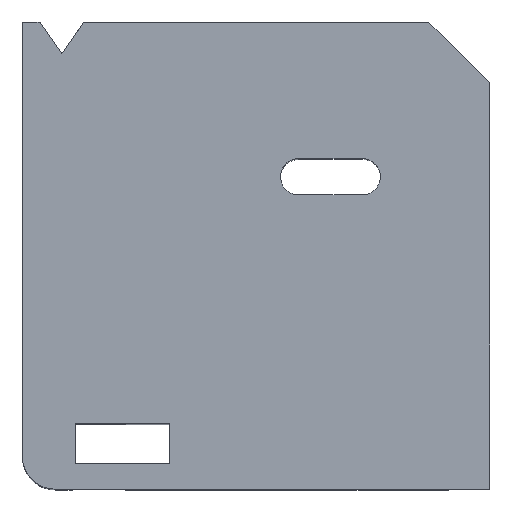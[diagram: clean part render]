
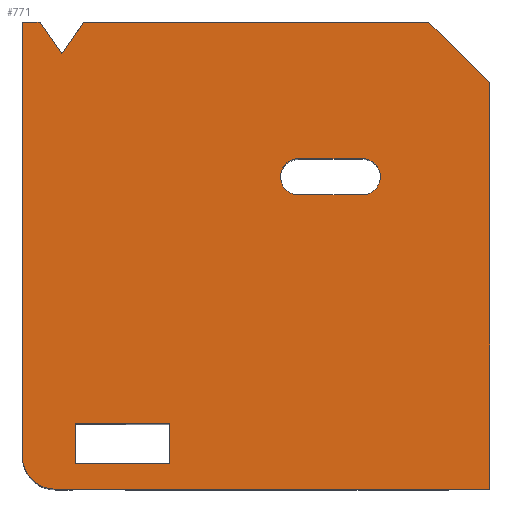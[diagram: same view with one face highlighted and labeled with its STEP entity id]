
A CAD part, top view. The second image highlights one B-rep face of the part: STEP entity #771.
In plain terms, the highlighted planar face has unit normal (0, 0, 1).
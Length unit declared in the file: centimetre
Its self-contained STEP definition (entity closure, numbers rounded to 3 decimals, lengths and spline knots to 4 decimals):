
#14 = EDGE_CURVE ( 'NONE', #1100, #1021, #1037, .T. ) ;
#19 = LINE ( 'NONE', #212, #1183 ) ;
#20 = VERTEX_POINT ( 'NONE', #1067 ) ;
#21 = DIRECTION ( 'NONE',  ( -1., 0., 0. ) ) ;
#29 = AXIS2_PLACEMENT_3D ( 'NONE', #1045, #581, #959 ) ;
#33 = DIRECTION ( 'NONE',  ( 1., 0., 0. ) ) ;
#53 = EDGE_CURVE ( 'NONE', #1125, #741, #441, .T. ) ;
#97 = CARTESIAN_POINT ( 'NONE',  ( 0., 0., 1000. ) ) ;
#143 = DIRECTION ( 'NONE',  ( 0., -1., 0. ) ) ;
#144 = CARTESIAN_POINT ( 'NONE',  ( 37.8812, 1000., 1000. ) ) ;
#147 = CIRCLE ( 'NONE', #29, 38.7042 ) ;
#156 = EDGE_CURVE ( 'NONE', #1043, #612, #302, .T. ) ;
#186 = VERTEX_POINT ( 'NONE', #525 ) ;
#187 = CARTESIAN_POINT ( 'NONE',  ( 113.2178, 140.1208, 1000. ) ) ;
#195 = ORIENTED_EDGE ( 'NONE', *, *, #391, .T. ) ;
#196 = CARTESIAN_POINT ( 'NONE',  ( 314.8779, 54.4337, 1000. ) ) ;
#203 = EDGE_CURVE ( 'NONE', #1146, #1151, #389, .T. ) ;
#212 = CARTESIAN_POINT ( 'NONE',  ( 113.2178, 54.4337, 1000. ) ) ;
#223 = CARTESIAN_POINT ( 'NONE',  ( 0., 0., 1000. ) ) ;
#227 = VERTEX_POINT ( 'NONE', #378 ) ;
#236 = AXIS2_PLACEMENT_3D ( 'NONE', #97, #367, #1180 ) ;
#239 = CARTESIAN_POINT ( 'NONE',  ( 70.3558, 0., 1000. ) ) ;
#251 = VECTOR ( 'NONE', #497, 100. ) ;
#252 = VECTOR ( 'NONE', #746, 100. ) ;
#257 = EDGE_CURVE ( 'NONE', #227, #1004, #644, .T. ) ;
#258 = FACE_OUTER_BOUND ( 'NONE', #518, .T. ) ;
#259 = ORIENTED_EDGE ( 'NONE', *, *, #707, .T. ) ;
#273 = CARTESIAN_POINT ( 'NONE',  ( 37.8812, 1000., 1000. ) ) ;
#281 = CARTESIAN_POINT ( 'NONE',  ( 84.5173, 932.9838, 1000. ) ) ;
#284 = CARTESIAN_POINT ( 'NONE',  ( 131.1533, 1000., 1000. ) ) ;
#292 = VERTEX_POINT ( 'NONE', #284 ) ;
#302 = CIRCLE ( 'NONE', #379, 70.3558 ) ;
#307 = CARTESIAN_POINT ( 'NONE',  ( 1000., 0., 1000. ) ) ;
#312 = CARTESIAN_POINT ( 'NONE',  ( 84.5173, 932.9838, 1000. ) ) ;
#313 = EDGE_CURVE ( 'NONE', #20, #1100, #854, .T. ) ;
#317 = EDGE_CURVE ( 'NONE', #1117, #20, #147, .T. ) ;
#319 = DIRECTION ( 'NONE',  ( 0., 0., -1. ) ) ;
#325 = CARTESIAN_POINT ( 'NONE',  ( 591.2044, 668.7535, 1000. ) ) ;
#347 = DIRECTION ( 'NONE',  ( 1., 0., 0. ) ) ;
#350 = ORIENTED_EDGE ( 'NONE', *, *, #156, .T. ) ;
#353 = VERTEX_POINT ( 'NONE', #307 ) ;
#361 = CARTESIAN_POINT ( 'NONE',  ( 591.2044, 630.0494, 1000. ) ) ;
#362 = ORIENTED_EDGE ( 'NONE', *, *, #933, .T. ) ;
#367 = DIRECTION ( 'NONE',  ( 0., 0., 1. ) ) ;
#374 = CARTESIAN_POINT ( 'NONE',  ( 113.2178, 54.4337, 1000. ) ) ;
#378 = CARTESIAN_POINT ( 'NONE',  ( 113.2178, 140.1208, 1000. ) ) ;
#379 = AXIS2_PLACEMENT_3D ( 'NONE', #1197, #543, #347 ) ;
#389 = LINE ( 'NONE', #488, #708 ) ;
#391 = EDGE_CURVE ( 'NONE', #612, #353, #986, .T. ) ;
#392 = DIRECTION ( 'NONE',  ( 0., -1., 0. ) ) ;
#401 = EDGE_CURVE ( 'NONE', #1151, #1043, #588, .T. ) ;
#403 = VERTEX_POINT ( 'NONE', #312 ) ;
#406 = VECTOR ( 'NONE', #392, 100. ) ;
#420 = ORIENTED_EDGE ( 'NONE', *, *, #313, .T. ) ;
#433 = ORIENTED_EDGE ( 'NONE', *, *, #1038, .F. ) ;
#441 = LINE ( 'NONE', #1087, #769 ) ;
#457 = FACE_BOUND ( 'NONE', #1172, .T. ) ;
#462 = EDGE_CURVE ( 'NONE', #1021, #186, #820, .T. ) ;
#467 = ORIENTED_EDGE ( 'NONE', *, *, #53, .T. ) ;
#488 = CARTESIAN_POINT ( 'NONE',  ( 0., 1000., 1000. ) ) ;
#491 = CARTESIAN_POINT ( 'NONE',  ( 870.1475, 1000., 1000. ) ) ;
#497 = DIRECTION ( 'NONE',  ( -1., 0., 0. ) ) ;
#501 = DIRECTION ( 'NONE',  ( 0.571, -0.821, 0. ) ) ;
#513 = AXIS2_PLACEMENT_3D ( 'NONE', #883, #1150, #972 ) ;
#518 = EDGE_LOOP ( 'NONE', ( #724, #433, #564, #973, #350, #195, #602, #650, #1069 ) ) ;
#525 = CARTESIAN_POINT ( 'NONE',  ( 591.2044, 707.4577, 1000. ) ) ;
#535 = VECTOR ( 'NONE', #33, 100. ) ;
#543 = DIRECTION ( 'NONE',  ( 0., 0., 1. ) ) ;
#556 = ORIENTED_EDGE ( 'NONE', *, *, #317, .T. ) ;
#564 = ORIENTED_EDGE ( 'NONE', *, *, #203, .T. ) ;
#566 = CARTESIAN_POINT ( 'NONE',  ( 0., 1000., 1000. ) ) ;
#574 = EDGE_CURVE ( 'NONE', #957, #844, #699, .T. ) ;
#577 = VECTOR ( 'NONE', #578, 100. ) ;
#578 = DIRECTION ( 'NONE',  ( -1., 0., 0. ) ) ;
#581 = DIRECTION ( 'NONE',  ( 0., 0., -1. ) ) ;
#582 = LINE ( 'NONE', #196, #406 ) ;
#588 = LINE ( 'NONE', #963, #987 ) ;
#594 = CARTESIAN_POINT ( 'NONE',  ( 314.8779, 140.1208, 1000. ) ) ;
#602 = ORIENTED_EDGE ( 'NONE', *, *, #1164, .T. ) ;
#610 = AXIS2_PLACEMENT_3D ( 'NONE', #325, #319, #1063 ) ;
#612 = VERTEX_POINT ( 'NONE', #239 ) ;
#621 = VECTOR ( 'NONE', #796, 100. ) ;
#629 = CARTESIAN_POINT ( 'NONE',  ( 727.6016, 707.4577, 1000. ) ) ;
#641 = PLANE ( 'NONE',  #236 ) ;
#642 = DIRECTION ( 'NONE',  ( 0., 1., 0. ) ) ;
#644 = LINE ( 'NONE', #187, #790 ) ;
#650 = ORIENTED_EDGE ( 'NONE', *, *, #574, .T. ) ;
#691 = LINE ( 'NONE', #144, #760 ) ;
#699 = LINE ( 'NONE', #785, #621 ) ;
#707 = EDGE_CURVE ( 'NONE', #186, #1117, #1003, .T. ) ;
#708 = VECTOR ( 'NONE', #21, 100. ) ;
#724 = ORIENTED_EDGE ( 'NONE', *, *, #1184, .F. ) ;
#741 = VERTEX_POINT ( 'NONE', #374 ) ;
#746 = DIRECTION ( 'NONE',  ( 1., 0., 0. ) ) ;
#753 = ORIENTED_EDGE ( 'NONE', *, *, #14, .T. ) ;
#760 = VECTOR ( 'NONE', #501, 100. ) ;
#769 = VECTOR ( 'NONE', #925, 100. ) ;
#771 = ADVANCED_FACE ( 'NONE', ( #457, #1105, #258 ), #641, .T. ) ;
#785 = CARTESIAN_POINT ( 'NONE',  ( 935.0738, 935.0738, 1000. ) ) ;
#790 = VECTOR ( 'NONE', #1109, 100. ) ;
#796 = DIRECTION ( 'NONE',  ( -0.707, 0.707, 0. ) ) ;
#820 = CIRCLE ( 'NONE', #610, 38.7042 ) ;
#837 = EDGE_LOOP ( 'NONE', ( #848, #938, #362, #467 ) ) ;
#838 = EDGE_CURVE ( 'NONE', #844, #292, #1148, .T. ) ;
#844 = VERTEX_POINT ( 'NONE', #491 ) ;
#848 = ORIENTED_EDGE ( 'NONE', *, *, #1078, .T. ) ;
#854 = LINE ( 'NONE', #1036, #577 ) ;
#878 = VECTOR ( 'NONE', #642, 100. ) ;
#883 = CARTESIAN_POINT ( 'NONE',  ( 591.2044, 668.7535, 1000. ) ) ;
#925 = DIRECTION ( 'NONE',  ( -1., 0., 0. ) ) ;
#929 = LINE ( 'NONE', #281, #1133 ) ;
#933 = EDGE_CURVE ( 'NONE', #1004, #1125, #582, .T. ) ;
#936 = CARTESIAN_POINT ( 'NONE',  ( 314.8779, 54.4337, 1000. ) ) ;
#938 = ORIENTED_EDGE ( 'NONE', *, *, #257, .T. ) ;
#957 = VERTEX_POINT ( 'NONE', #961 ) ;
#959 = DIRECTION ( 'NONE',  ( 1., 0., 0. ) ) ;
#961 = CARTESIAN_POINT ( 'NONE',  ( 1000., 870.1475, 1000. ) ) ;
#963 = CARTESIAN_POINT ( 'NONE',  ( 0., 1000., 1000. ) ) ;
#970 = CARTESIAN_POINT ( 'NONE',  ( 0., 70.3558, 1000. ) ) ;
#972 = DIRECTION ( 'NONE',  ( 1., 0., 0. ) ) ;
#973 = ORIENTED_EDGE ( 'NONE', *, *, #401, .T. ) ;
#983 = CARTESIAN_POINT ( 'NONE',  ( 552.5002, 668.7535, 1000. ) ) ;
#986 = LINE ( 'NONE', #223, #535 ) ;
#987 = VECTOR ( 'NONE', #143, 100. ) ;
#1003 = LINE ( 'NONE', #629, #252 ) ;
#1004 = VERTEX_POINT ( 'NONE', #594 ) ;
#1020 = DIRECTION ( 'NONE',  ( 0.571, 0.821, 0. ) ) ;
#1021 = VERTEX_POINT ( 'NONE', #983 ) ;
#1027 = CARTESIAN_POINT ( 'NONE',  ( 1000., 1000., 1000. ) ) ;
#1029 = ORIENTED_EDGE ( 'NONE', *, *, #462, .T. ) ;
#1034 = CARTESIAN_POINT ( 'NONE',  ( 727.6016, 707.4577, 1000. ) ) ;
#1036 = CARTESIAN_POINT ( 'NONE',  ( 591.2044, 630.0494, 1000. ) ) ;
#1037 = CIRCLE ( 'NONE', #513, 38.7042 ) ;
#1038 = EDGE_CURVE ( 'NONE', #1146, #403, #691, .T. ) ;
#1043 = VERTEX_POINT ( 'NONE', #970 ) ;
#1045 = CARTESIAN_POINT ( 'NONE',  ( 727.6016, 668.7535, 1000. ) ) ;
#1063 = DIRECTION ( 'NONE',  ( 1., 0., 0. ) ) ;
#1067 = CARTESIAN_POINT ( 'NONE',  ( 727.6016, 630.0494, 1000. ) ) ;
#1069 = ORIENTED_EDGE ( 'NONE', *, *, #838, .T. ) ;
#1078 = EDGE_CURVE ( 'NONE', #741, #227, #19, .T. ) ;
#1087 = CARTESIAN_POINT ( 'NONE',  ( 113.2178, 54.4337, 1000. ) ) ;
#1100 = VERTEX_POINT ( 'NONE', #361 ) ;
#1105 = FACE_BOUND ( 'NONE', #837, .T. ) ;
#1109 = DIRECTION ( 'NONE',  ( 1., 0., 0. ) ) ;
#1114 = CARTESIAN_POINT ( 'NONE',  ( 0., 1000., 1000. ) ) ;
#1117 = VERTEX_POINT ( 'NONE', #1034 ) ;
#1125 = VERTEX_POINT ( 'NONE', #936 ) ;
#1133 = VECTOR ( 'NONE', #1020, 100. ) ;
#1135 = LINE ( 'NONE', #1027, #878 ) ;
#1146 = VERTEX_POINT ( 'NONE', #273 ) ;
#1148 = LINE ( 'NONE', #566, #251 ) ;
#1150 = DIRECTION ( 'NONE',  ( 0., 0., -1. ) ) ;
#1151 = VERTEX_POINT ( 'NONE', #1114 ) ;
#1164 = EDGE_CURVE ( 'NONE', #353, #957, #1135, .T. ) ;
#1172 = EDGE_LOOP ( 'NONE', ( #753, #1029, #259, #556, #420 ) ) ;
#1180 = DIRECTION ( 'NONE',  ( 1., 0., 0. ) ) ;
#1183 = VECTOR ( 'NONE', #1195, 100. ) ;
#1184 = EDGE_CURVE ( 'NONE', #403, #292, #929, .T. ) ;
#1195 = DIRECTION ( 'NONE',  ( 0., 1., 0. ) ) ;
#1197 = CARTESIAN_POINT ( 'NONE',  ( 70.3558, 70.3558, 1000. ) ) ;
